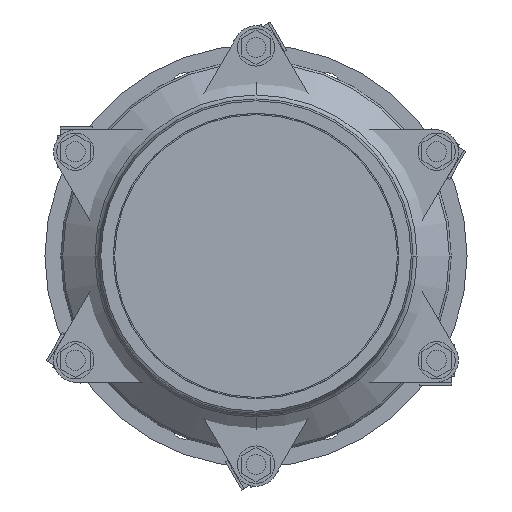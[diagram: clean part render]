
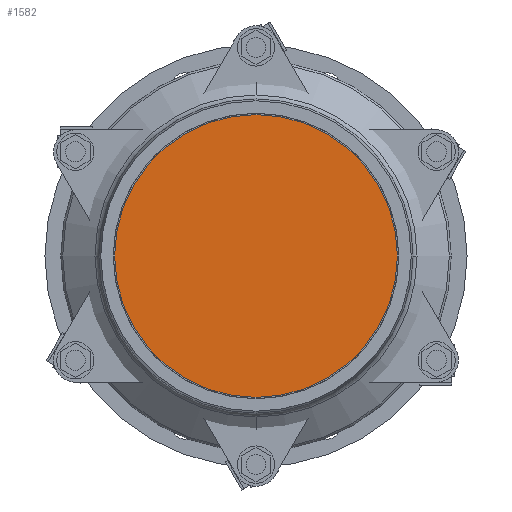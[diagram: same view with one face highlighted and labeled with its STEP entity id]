
A CAD part, left-side view. The second image highlights one B-rep face of the part: STEP entity #1582.
In plain terms, the highlighted planar face has unit normal (-1, 0, 0).
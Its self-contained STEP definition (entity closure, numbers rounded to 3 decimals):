
#1582=ADVANCED_FACE('',(#2989),#2990,.T.);
#2989=FACE_OUTER_BOUND('',#4678,.T.);
#2990=PLANE('',#4679);
#4678=EDGE_LOOP('',(#7343,#7344));
#4679=AXIS2_PLACEMENT_3D('',#7345,#7346,#7347);
#7343=ORIENTED_EDGE('',*,*,#9615,.T.);
#7344=ORIENTED_EDGE('',*,*,#9953,.T.);
#7345=CARTESIAN_POINT('',(-662.5,-509.412,364.084));
#7346=DIRECTION('',(-1.0,0.0,0.));
#7347=DIRECTION('',(0.,0.0,1.0));
#9615=EDGE_CURVE('',#11471,#11476,#11478,.T.);
#9953=EDGE_CURVE('',#11476,#11471,#11940,.T.);
#11471=VERTEX_POINT('',#13872);
#11476=VERTEX_POINT('',#13878);
#11478=CIRCLE('',#13881,126.5);
#11940=CIRCLE('',#14526,126.5);
#13872=CARTESIAN_POINT('',(-662.5,-509.412,237.584));
#13878=CARTESIAN_POINT('',(-662.5,-509.412,490.584));
#13881=AXIS2_PLACEMENT_3D('',#15949,#15950,#15951);
#14526=AXIS2_PLACEMENT_3D('',#16267,#16268,#16269);
#15949=CARTESIAN_POINT('',(-662.5,-509.412,364.084));
#15950=DIRECTION('',(-1.0,0.0,0.));
#15951=DIRECTION('',(0.,0.0,-1.0));
#16267=CARTESIAN_POINT('',(-662.5,-509.412,364.084));
#16268=DIRECTION('',(-1.0,0.0,0.));
#16269=DIRECTION('',(0.,0.0,-1.0));
